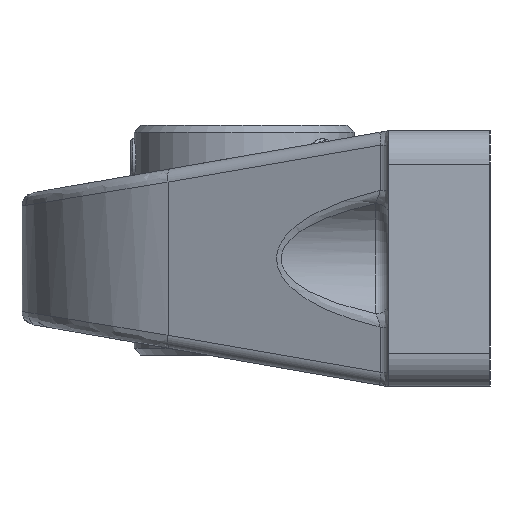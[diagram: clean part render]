
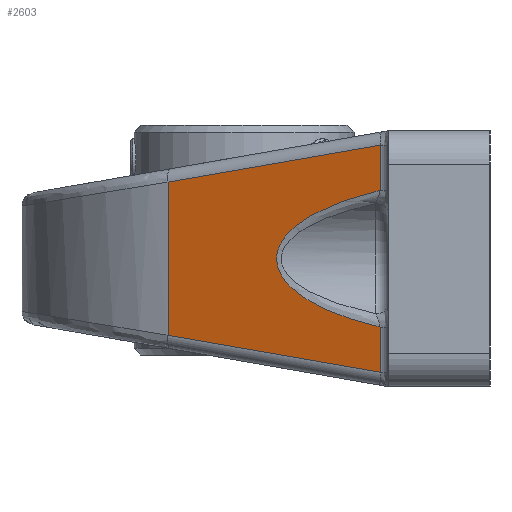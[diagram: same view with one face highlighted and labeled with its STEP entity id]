
A CAD part, left-side view. The second image highlights one B-rep face of the part: STEP entity #2603.
In plain terms, the highlighted planar face has unit normal (-0.94, 0.342, 0).
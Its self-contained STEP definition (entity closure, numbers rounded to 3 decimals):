
#168=PLANE('',#2961);
#375=FACE_OUTER_BOUND('',#518,.T.);
#518=EDGE_LOOP('',(#1870,#1871,#1872,#1873,#1874,#1875));
#674=ELLIPSE('',#2957,35.086,12.);
#905=LINE('',#4472,#1005);
#907=LINE('',#4593,#1007);
#908=LINE('',#4638,#1008);
#910=LINE('',#4644,#1010);
#911=LINE('',#4645,#1011);
#1005=VECTOR('',#3399,10.);
#1007=VECTOR('',#3423,10.);
#1008=VECTOR('',#3430,10.);
#1010=VECTOR('',#3436,10.);
#1011=VECTOR('',#3437,10.);
#1125=VERTEX_POINT('',#4453);
#1129=VERTEX_POINT('',#4468);
#1134=VERTEX_POINT('',#4533);
#1139=VERTEX_POINT('',#4586);
#1141=VERTEX_POINT('',#4637);
#1143=VERTEX_POINT('',#4643);
#1420=EDGE_CURVE('',#1125,#1129,#905,.T.);
#1435=EDGE_CURVE('',#1139,#1134,#907,.T.);
#1436=EDGE_CURVE('',#1134,#1125,#674,.T.);
#1438=EDGE_CURVE('',#1129,#1141,#908,.T.);
#1441=EDGE_CURVE('',#1143,#1139,#910,.T.);
#1442=EDGE_CURVE('',#1141,#1143,#911,.T.);
#1870=ORIENTED_EDGE('',*,*,#1420,.F.);
#1871=ORIENTED_EDGE('',*,*,#1436,.F.);
#1872=ORIENTED_EDGE('',*,*,#1435,.F.);
#1873=ORIENTED_EDGE('',*,*,#1441,.F.);
#1874=ORIENTED_EDGE('',*,*,#1442,.F.);
#1875=ORIENTED_EDGE('',*,*,#1438,.F.);
#2603=ADVANCED_FACE('',(#375),#168,.T.);
#2957=AXIS2_PLACEMENT_3D('',#4634,#3424,#3425);
#2961=AXIS2_PLACEMENT_3D('',#4642,#3434,#3435);
#3399=DIRECTION('',(0.,0.,-1.));
#3423=DIRECTION('',(0.,0.,-1.));
#3424=DIRECTION('center_axis',(-0.94,0.342,0.));
#3425=DIRECTION('ref_axis',(0.342,0.94,0.));
#3430=DIRECTION('',(0.338,0.927,0.162));
#3434=DIRECTION('center_axis',(-0.94,0.342,0.));
#3435=DIRECTION('ref_axis',(0.342,0.94,0.));
#3436=DIRECTION('',(-0.338,-0.927,0.162));
#3437=DIRECTION('',(0.,0.,1.));
#4453=CARTESIAN_POINT('',(-42.464,16.316,-10.141));
#4468=CARTESIAN_POINT('',(-42.464,16.316,-16.86));
#4472=CARTESIAN_POINT('',(-42.464,16.316,0.));
#4533=CARTESIAN_POINT('',(-42.464,16.316,10.141));
#4586=CARTESIAN_POINT('',(-42.464,16.316,16.86));
#4593=CARTESIAN_POINT('',(-42.464,16.316,0.));
#4634=CARTESIAN_POINT('Origin',(-48.879,-1.309,0.));
#4637=CARTESIAN_POINT('',(-31.01,47.787,-11.374));
#4638=CARTESIAN_POINT('',(-31.295,47.004,-11.51));
#4642=CARTESIAN_POINT('Origin',(-42.943,15.,0.));
#4643=CARTESIAN_POINT('',(-31.01,47.787,11.374));
#4644=CARTESIAN_POINT('',(-40.083,22.858,15.719));
#4645=CARTESIAN_POINT('',(-31.01,47.787,0.));
